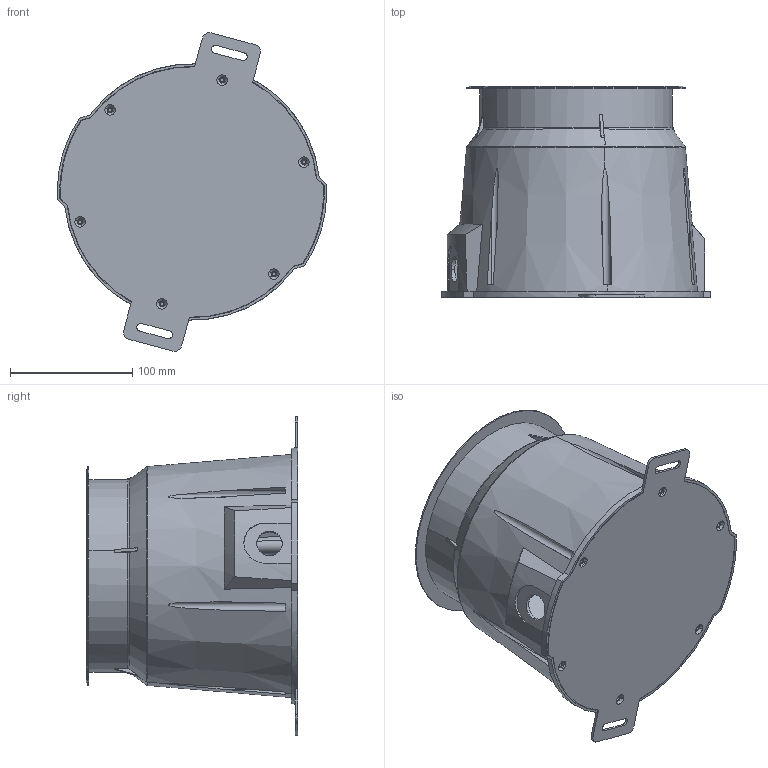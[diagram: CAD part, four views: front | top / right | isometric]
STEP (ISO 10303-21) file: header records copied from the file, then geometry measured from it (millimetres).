
FILE_DESCRIPTION((''),'2;1');
FILE_NAME('4YB_ASM_ASM','2024-11-12T',('Administrator'),(''),'CREO PARAMETRIC BY PTC INC, 2014500','CREO PARAMETRIC BY PTC INC, 2014500','');
FILE_SCHEMA(('CONFIG_CONTROL_DESIGN'));
Length unit declared in the file: millimetre
Products named in the file (29): 4YAHOUSING_101; LUO-GAN-2_1_100; LUO-MAO-1_1_100; DIAN-QUAN-5_1_100; PG11_ASM_1_ASM_100_ASM; 4YBSANRELVKUAI_105; 4YA_100; 4YBYUANMG_100; GLASS_100; LUO-MAO-1_2_3_100; LUO-GAN-2_1_2_100; DIAN-QUAN-5_1_2_100; 4XCX_4_2_100; PG11_ASM_100_ASM; SUS304BOSS_100; 4YB-SANREBAN_110; 4YBLJB-49_102; B15_71; B15-0_71; B15-1_71; B15-2_71; 003_ASM_71_ASM; 4YB-NEW-SLEEVE-02_66; 4XC-YMT-DIGAI_66; 4YBFST_66; 4XC-SLEEVE-02_ASM_66_ASM; 4YB-FGQ-006_25; 4YB_ASM_104_ASM; 4YB_ASM_ASM
Assembly tree (34 placements, depth 4):
  4YB_ASM_ASM
    4YB_ASM_104_ASM
      4YAHOUSING_101
      PG11_ASM_1_ASM_100_ASM
        LUO-GAN-2_1_100
        LUO-MAO-1_1_100
        DIAN-QUAN-5_1_100
      4YBSANRELVKUAI_105
      4YA_100
      4YBYUANMG_100
      GLASS_100
      PG11_ASM_100_ASM
        LUO-MAO-1_2_3_100
        LUO-GAN-2_1_2_100
        DIAN-QUAN-5_1_2_100
        4XCX_4_2_100
      SUS304BOSS_100  x6
      4YB-SANREBAN_110
      4YBLJB-49_102
      003_ASM_71_ASM  x2
        B15_71
        B15-0_71
        B15-1_71
        B15-2_71
      4XC-SLEEVE-02_ASM_66_ASM
        4YB-NEW-SLEEVE-02_66
        4XC-YMT-DIGAI_66
        4YBFST_66
      4YB-FGQ-006_25
Bounding box: 220.51 x 173 x 261.11 mm (x, y, z)
Volume: 680179.4 mm3; surface area: 584896.9 mm2
Topology: 32 solids, 32 shells, 2532 faces, 7291 edges, 4890 vertices
Faces by surface type: plane 1209, cylinder 873, torus 178, cone 146, bspline 126
Entity records: 90086 total; most frequent: CARTESIAN_POINT 32513, ORIENTED_EDGE 12294, DIRECTION 11916, EDGE_CURVE 6147, AXIS2_PLACEMENT_3D 4500, VERTEX_POINT 4134, VECTOR 2916, LINE 2916
